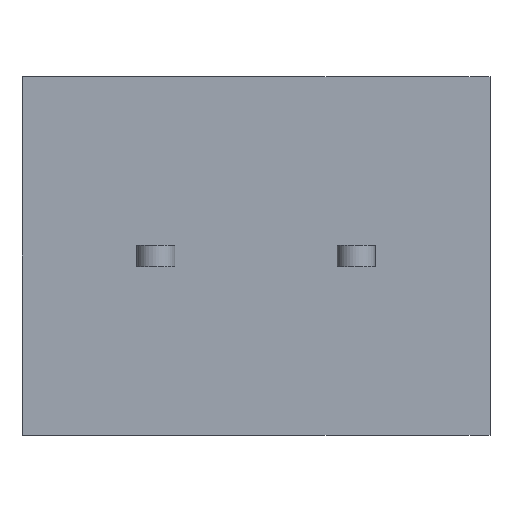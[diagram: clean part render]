
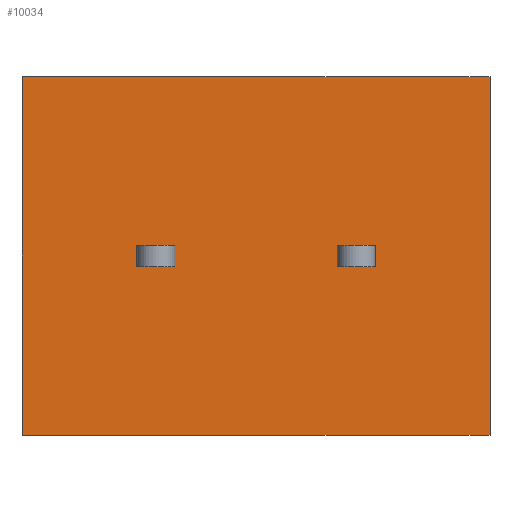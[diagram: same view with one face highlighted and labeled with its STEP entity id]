
A CAD part, front view. The second image highlights one B-rep face of the part: STEP entity #10034.
In plain terms, the highlighted planar face has unit normal (0, -1, 0).
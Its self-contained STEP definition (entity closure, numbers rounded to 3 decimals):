
#670=VERTEX_POINT('',#12903);
#671=VERTEX_POINT('',#12904);
#674=VERTEX_POINT('',#12912);
#686=VERTEX_POINT('',#12950);
#721=VERTEX_POINT('',#13069);
#722=VERTEX_POINT('',#13071);
#1199=VERTEX_POINT('',#14962);
#1200=VERTEX_POINT('',#14964);
#1207=VERTEX_POINT('',#14987);
#1208=VERTEX_POINT('',#14988);
#1209=VERTEX_POINT('',#14990);
#1210=VERTEX_POINT('',#14992);
#1682=VECTOR('',#10946,1.);
#1685=VECTOR('',#10952,1.);
#1697=VECTOR('',#10988,1.);
#1699=VECTOR('',#10991,1.);
#1741=VECTOR('',#11094,1.);
#2296=VECTOR('',#11950,1.);
#2304=VECTOR('',#11968,1.);
#2305=VECTOR('',#11970,1.);
#2306=VECTOR('',#11971,1.);
#2307=VECTOR('',#11972,1.);
#2308=VECTOR('',#11973,1.);
#2309=VECTOR('',#11974,1.);
#2816=LINE('',#12902,#1682);
#2819=LINE('',#12911,#1685);
#2831=LINE('',#12949,#1697);
#2833=LINE('',#12953,#1699);
#2875=LINE('',#13070,#1741);
#3430=LINE('',#14963,#2296);
#3438=LINE('',#14984,#2304);
#3439=LINE('',#14986,#2305);
#3440=LINE('',#14989,#2306);
#3441=LINE('',#14991,#2307);
#3442=LINE('',#14993,#2308);
#3443=LINE('',#14994,#2309);
#3952=EDGE_CURVE('',#670,#671,#2816,.T.);
#3956=EDGE_CURVE('',#671,#674,#2819,.T.);
#3975=EDGE_CURVE('',#686,#670,#2831,.T.);
#3977=EDGE_CURVE('',#674,#686,#2833,.T.);
#4036=EDGE_CURVE('',#722,#721,#2875,.T.);
#4740=EDGE_CURVE('',#1199,#1200,#3430,.T.);
#4751=EDGE_CURVE('',#1199,#722,#3438,.T.);
#4752=EDGE_CURVE('',#1207,#1208,#3439,.T.);
#4753=EDGE_CURVE('',#1208,#1209,#3440,.T.);
#4754=EDGE_CURVE('',#1209,#1210,#3441,.T.);
#4755=EDGE_CURVE('',#1210,#1207,#3442,.T.);
#4756=EDGE_CURVE('',#1200,#721,#3443,.T.);
#7032=ORIENTED_EDGE('',*,*,#3952,.T.);
#7033=ORIENTED_EDGE('',*,*,#3956,.T.);
#7034=ORIENTED_EDGE('',*,*,#3977,.T.);
#7035=ORIENTED_EDGE('',*,*,#3975,.T.);
#7036=ORIENTED_EDGE('',*,*,#4752,.T.);
#7037=ORIENTED_EDGE('',*,*,#4753,.T.);
#7038=ORIENTED_EDGE('',*,*,#4754,.T.);
#7039=ORIENTED_EDGE('',*,*,#4755,.T.);
#7040=ORIENTED_EDGE('',*,*,#4751,.T.);
#7041=ORIENTED_EDGE('',*,*,#4036,.T.);
#7042=ORIENTED_EDGE('',*,*,#4756,.F.);
#7043=ORIENTED_EDGE('',*,*,#4740,.F.);
#8795=EDGE_LOOP('',(#7032,#7033,#7034,#7035));
#8796=EDGE_LOOP('',(#7036,#7037,#7038,#7039));
#8797=EDGE_LOOP('',(#7040,#7041,#7042,#7043));
#9427=FACE_BOUND('',#8795,.T.);
#9428=FACE_BOUND('',#8796,.T.);
#9429=FACE_BOUND('',#8797,.T.);
#10034=ADVANCED_FACE('',(#9427,#9428,#9429),#17143,.T.);
#10629=AXIS2_PLACEMENT_3D('',#14985,#11969,$);
#10946=DIRECTION('',(1.,0.,0.));
#10952=DIRECTION('',(0.,0.,-1.));
#10988=DIRECTION('',(0.,0.,1.));
#10991=DIRECTION('',(-1.,0.,0.));
#11094=DIRECTION('',(0.,0.,1.));
#11950=DIRECTION('',(0.,0.,1.));
#11968=DIRECTION('',(1.,0.,0.));
#11969=DIRECTION('',(0.,-1.,0.));
#11970=DIRECTION('',(1.,0.,0.));
#11971=DIRECTION('',(0.,0.,-1.));
#11972=DIRECTION('',(-1.,0.,0.));
#11973=DIRECTION('',(0.,0.,1.));
#11974=DIRECTION('',(1.,0.,0.));
#12902=CARTESIAN_POINT('',(2.275,0.,0.5));
#12903=CARTESIAN_POINT('',(4.55,0.,0.5));
#12904=CARTESIAN_POINT('',(6.35,0.,0.5));
#12911=CARTESIAN_POINT('',(6.35,0.,1.75));
#12912=CARTESIAN_POINT('',(6.35,0.,-0.5));
#12949=CARTESIAN_POINT('',(4.55,0.,1.75));
#12950=CARTESIAN_POINT('',(4.55,0.,-0.5));
#12953=CARTESIAN_POINT('',(2.275,0.,-0.5));
#13069=CARTESIAN_POINT('',(21.3,0.,8.5));
#13070=CARTESIAN_POINT('',(21.3,0.,-8.5));
#13071=CARTESIAN_POINT('',(21.3,0.,-8.5));
#14962=CARTESIAN_POINT('',(-0.9,0.,-8.5));
#14963=CARTESIAN_POINT('',(-0.9,0.,-8.5));
#14964=CARTESIAN_POINT('',(-0.9,0.,8.5));
#14984=CARTESIAN_POINT('',(-0.9,0.,-8.5));
#14985=CARTESIAN_POINT('',(-0.9,0.,0.));
#14986=CARTESIAN_POINT('',(7.025,0.,0.5));
#14987=CARTESIAN_POINT('',(14.05,0.,0.5));
#14988=CARTESIAN_POINT('',(15.85,0.,0.5));
#14989=CARTESIAN_POINT('',(15.85,0.,1.75));
#14990=CARTESIAN_POINT('',(15.85,0.,-0.5));
#14991=CARTESIAN_POINT('',(7.025,0.,-0.5));
#14992=CARTESIAN_POINT('',(14.05,0.,-0.5));
#14993=CARTESIAN_POINT('',(14.05,0.,1.75));
#14994=CARTESIAN_POINT('',(-0.9,0.,8.5));
#17143=PLANE('',#10629);
